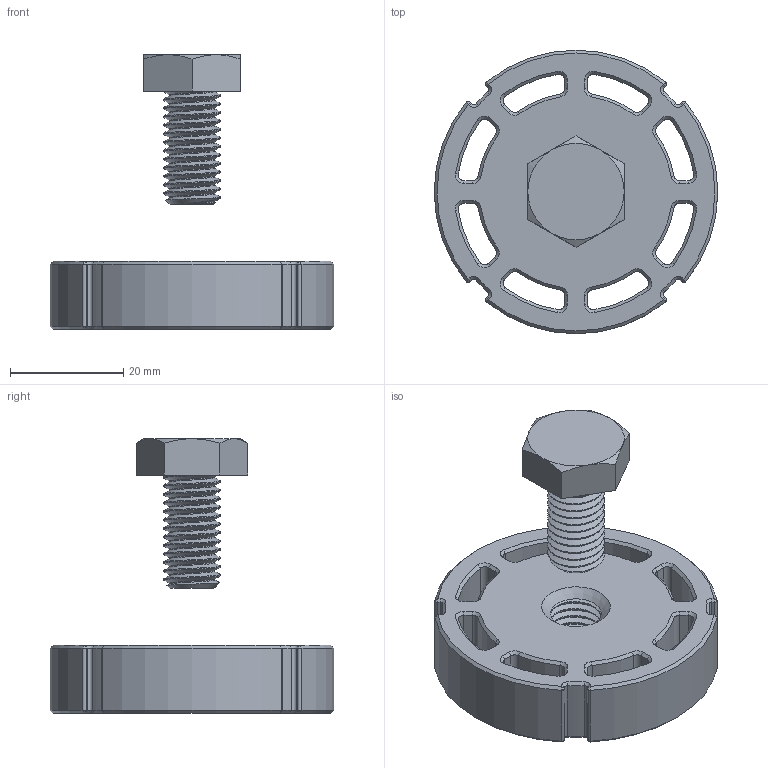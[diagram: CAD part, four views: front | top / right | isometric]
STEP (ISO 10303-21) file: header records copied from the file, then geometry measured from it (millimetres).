
FILE_DESCRIPTION(/* description */ (''),/* implementation_level */ '2;1');
FILE_NAME(/* name */ '/Users/andreasbastian/Dropbox/e-NABLE/ECF/grabcad design challenge/ICRC model wrist unit.step',/* time_stamp */ '2016-04-13T19:41:26-07:00',/* author */ (''),/* organization */ (''),/* preprocessor_version */ 'ST-DEVELOPER v16.2',/* originating_system */ 'Autodesk Translation Framework v4.3.0.3010',/* authorisation */ '');
FILE_SCHEMA (('AUTOMOTIVE_DESIGN { 1 0 10303 214 3 1 1 }'));
Length unit declared in the file: centimetre
Products named in the file (3): ICRC wrist unit v11; M10x25mm; ICRC model wrist unit
Assembly tree (2 placements, depth 2):
  ICRC wrist unit v11
    M10x25mm
    ICRC model wrist unit
Bounding box: 50 x 50 x 48.4 mm (x, y, z)
Volume: 21446.8 mm3; surface area: 9925.5 mm2
Topology: 2 solids, 2 shells, 318 faces, 736 edges, 407 vertices
Faces by surface type: cone 153, plane 85, cylinder 75, bspline 5
Entity records: 12789 total; most frequent: CARTESIAN_POINT 5553, DIRECTION 1612, ORIENTED_EDGE 1430, EDGE_CURVE 715, AXIS2_PLACEMENT_3D 608, VERTEX_POINT 405, LINE 396, VECTOR 396
